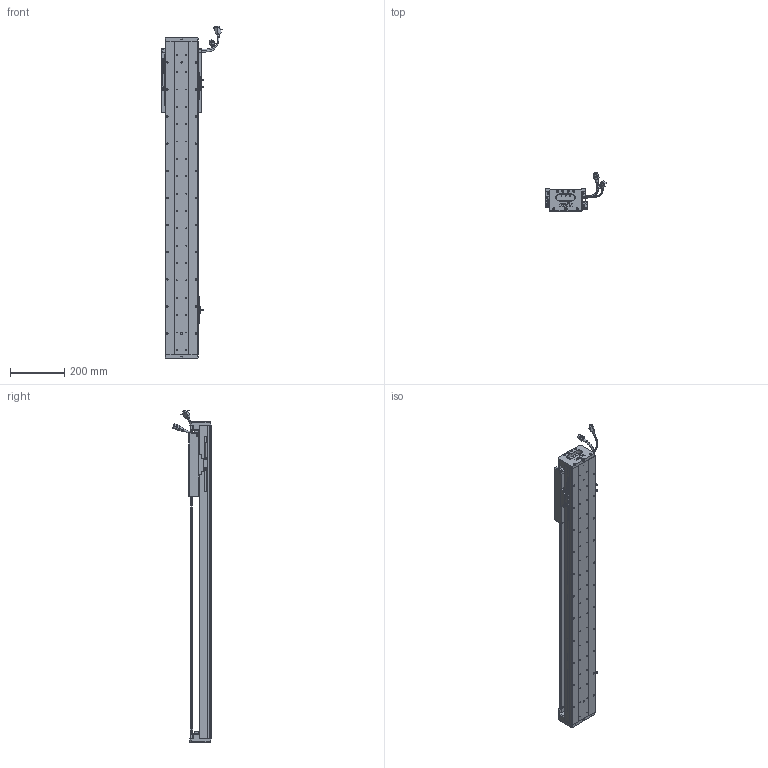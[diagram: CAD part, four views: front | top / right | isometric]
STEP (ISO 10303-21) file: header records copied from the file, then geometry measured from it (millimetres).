
FILE_DESCRIPTION (( 'STEP AP203' ), '1' );
FILE_NAME ('Z3-RY120D-1-L500-B-K.SLDASM_0850.step', '2021-05-17T05:46:36', ( '盈信电脑' ), ( '东莞市道滘镇水果街19号' ), 'SwSTEP 2.0', 'SolidWorks 2016', '' );
FILE_SCHEMA (( 'CONFIG_CONTROL_DESIGN' ));
Length unit declared in the file: millimetre
Products named in the file (37): HARNESS-Part-1; Z3-RY120D-1-L500-B-K.SLDASM_0850; SEAL; SCREW-M1.6; LABEL; LABEL-Part-1; 140蚥薯蝶輸; COVER-Part-1; 覜茼ん672; 140雄赽晤鎢ん堤盄; Z3-RY120铝滑块（21款）; Z-120詩湍傷裔啣; PSLH080_PSLF2; SCREW-M1.7-1; SHIELDPLATE; SEAL-Part-1; HARNESS; SCREW-M1.6-1; 120-Z-臏賑輸盄裔(21遴); SCALE; 080黍杅芛假蚾釱21遴; SCALE-Part-1; HOLDER0; SCREW-M1.6-2; HARNESS-Part-2; SCALE-Part-2; 榋妏寠巭燃_暯_M2_2; COVER; Z-RY120D詩湍奻揤裔; Z3-RY120-L500詩湍100mm遵_0850; 672嫖萇羲壽假蚾釱; SCREW-M1.6-3; Z3-RY120-500-倰第菁釱_0850; PBU_SHEET; Z-RY120D詩湍狟揤裔; SCREW-M1.7; RY100FB-遵嫖萇覜茼え
Assembly tree (43 placements, depth 4):
  Z3-RY120D-1-L500-B-K.SLDASM_0850
    Z3-RY120-500-倰第菁釱_0850
    覜茼ん672  x3
    672嫖萇羲壽假蚾釱  x2
    Z3-RY120铝滑块（21款）
    PSLH080_PSLF2
      SCALE
        SCALE-Part-1
        SCALE-Part-2
      HARNESS
        HARNESS-Part-1
        HARNESS-Part-2
      LABEL
        LABEL-Part-1
      COVER
        COVER-Part-1
      SEAL
        SEAL-Part-1
      榋妏寠巭燃_暯_M2_2
      SHIELDPLATE
      SCREW-M1.7
      SCREW-M1.7-1
      PBU_SHEET
      SCREW-M1.6
      SCREW-M1.6-1
      SCREW-M1.6-2
      SCREW-M1.6-3
      HOLDER0
    080黍杅芛假蚾釱21遴
    120-Z-臏賑輸盄裔(21遴)
    140雄赽晤鎢ん堤盄
    140蚥薯蝶輸  x2
    RY100FB-遵嫖萇覜茼え
    Z-120詩湍傷裔啣  x2
    Z-RY120D詩湍奻揤裔  x2
    Z-RY120D詩湍狟揤裔  x2
    Z3-RY120-L500詩湍100mm遵_0850
Bounding box: 222.87 x 140.94 x 1224 mm (x, y, z)
Volume: 3368617.5 mm3; surface area: 1126333.6 mm2
Topology: 38 solids, 38 shells, 2865 faces, 7771 edges, 4906 vertices
Faces by surface type: cylinder 1329, plane 1128, cone 286, torus 69, bspline 53
Entity records: 86818 total; most frequent: CARTESIAN_POINT 23411, ORIENTED_EDGE 12494, DIRECTION 12227, EDGE_CURVE 6247, AXIS2_PLACEMENT_3D 4480, VERTEX_POINT 4026, LINE 3267, VECTOR 3267
